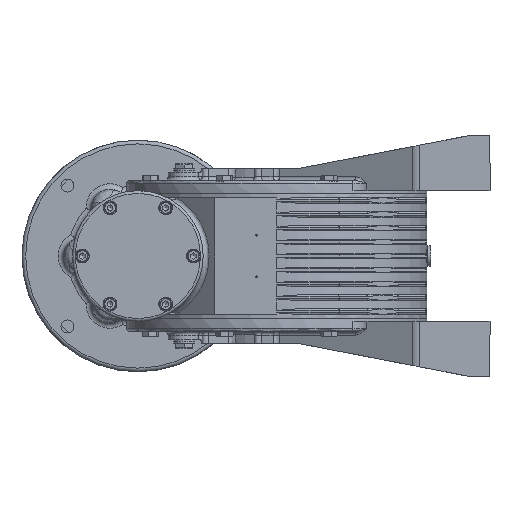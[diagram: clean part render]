
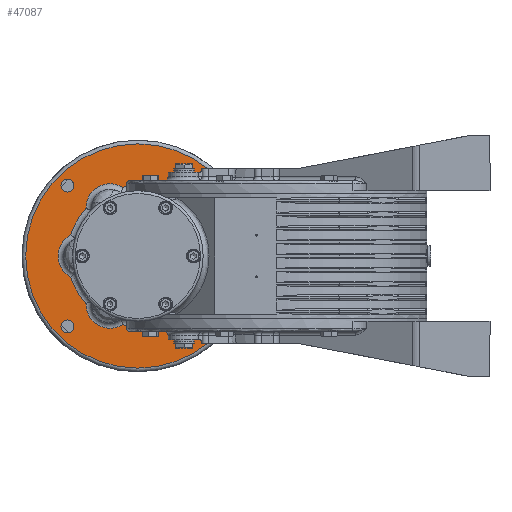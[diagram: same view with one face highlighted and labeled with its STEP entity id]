
A CAD part, left-side view. The second image highlights one B-rep face of the part: STEP entity #47087.
In plain terms, the highlighted planar face has unit normal (-1, 0, 0) as drawn and (1, 0, 0) by its records, which use the part's own axes.
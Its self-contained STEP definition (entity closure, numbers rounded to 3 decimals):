
#46913=CARTESIAN_POINT('',(15.0,121.0,0.));
#46914=VERTEX_POINT('',#46913);
#46915=CARTESIAN_POINT('',(15.0,0.0,0.0));
#46916=DIRECTION('',(-1.0,0.0,0.0));
#46917=DIRECTION('',(0.0,-1.0,0.0));
#46918=AXIS2_PLACEMENT_3D('',#46915,#46916,#46917);
#46919=CIRCLE('',#46918,121.0);
#46920=EDGE_CURVE('',#46914,#46914,#46919,.T.);
#46925=CARTESIAN_POINT('',(15.0,97.5,0.0));
#46926=DIRECTION('',(1.0,0.0,0.0));
#46927=DIRECTION('',(0.0,0.0,-1.0));
#46928=AXIS2_PLACEMENT_3D('',#46925,#46926,#46927);
#46929=PLANE('',#46928);
#46930=ORIENTED_EDGE('',*,*,#46920,.F.);
#46931=EDGE_LOOP('',(#46930));
#46932=FACE_OUTER_BOUND('',#46931,.T.);
#46933=CARTESIAN_POINT('',(15.0,16.506,74.186));
#46934=VERTEX_POINT('',#46933);
#46935=CARTESIAN_POINT('',(15.0,-16.506,74.186));
#46936=VERTEX_POINT('',#46935);
#46937=CARTESIAN_POINT('',(15.0,0.0,0.0));
#46938=DIRECTION('',(1.0,0.0,0.0));
#46939=DIRECTION('',(0.0,0.0,1.0));
#46940=AXIS2_PLACEMENT_3D('',#46937,#46938,#46939);
#46941=CIRCLE('',#46940,76.0);
#46942=EDGE_CURVE('',#46934,#46936,#46941,.T.);
#46943=ORIENTED_EDGE('',*,*,#46942,.F.);
#46944=CARTESIAN_POINT('',(15.0,55.994,51.388));
#46945=VERTEX_POINT('',#46944);
#46946=CARTESIAN_POINT('',(15.0,30.,51.962));
#46947=DIRECTION('',(1.0,0.0,0.0));
#46948=DIRECTION('',(0.0,0.5,0.866));
#46949=AXIS2_PLACEMENT_3D('',#46946,#46947,#46948);
#46950=CIRCLE('',#46949,26.);
#46951=EDGE_CURVE('',#46945,#46934,#46950,.T.);
#46952=ORIENTED_EDGE('',*,*,#46951,.F.);
#46953=CARTESIAN_POINT('',(15.0,72.5,22.798));
#46954=VERTEX_POINT('',#46953);
#46955=CARTESIAN_POINT('',(15.0,0.0,0.0));
#46956=DIRECTION('',(1.0,0.0,0.0));
#46957=DIRECTION('',(0.0,0.866,0.5));
#46958=AXIS2_PLACEMENT_3D('',#46955,#46956,#46957);
#46959=CIRCLE('',#46958,76.0);
#46960=EDGE_CURVE('',#46954,#46945,#46959,.T.);
#46961=ORIENTED_EDGE('',*,*,#46960,.F.);
#46962=CARTESIAN_POINT('',(15.0,72.5,-22.798));
#46963=VERTEX_POINT('',#46962);
#46964=CARTESIAN_POINT('',(15.0,60.0,0.));
#46965=DIRECTION('',(1.0,0.0,0.0));
#46966=DIRECTION('',(0.0,1.0,0.0));
#46967=AXIS2_PLACEMENT_3D('',#46964,#46965,#46966);
#46968=CIRCLE('',#46967,26.);
#46969=EDGE_CURVE('',#46963,#46954,#46968,.T.);
#46970=ORIENTED_EDGE('',*,*,#46969,.F.);
#46971=CARTESIAN_POINT('',(15.0,55.994,-51.388));
#46972=VERTEX_POINT('',#46971);
#46973=CARTESIAN_POINT('',(15.0,0.0,0.0));
#46974=DIRECTION('',(1.0,0.0,0.0));
#46975=DIRECTION('',(0.0,0.866,-0.5));
#46976=AXIS2_PLACEMENT_3D('',#46973,#46974,#46975);
#46977=CIRCLE('',#46976,76.);
#46978=EDGE_CURVE('',#46972,#46963,#46977,.T.);
#46979=ORIENTED_EDGE('',*,*,#46978,.F.);
#46980=CARTESIAN_POINT('',(15.0,16.506,-74.186));
#46981=VERTEX_POINT('',#46980);
#46982=CARTESIAN_POINT('',(15.0,30.,-51.962));
#46983=DIRECTION('',(1.0,0.0,0.0));
#46984=DIRECTION('',(0.0,0.5,-0.866));
#46985=AXIS2_PLACEMENT_3D('',#46982,#46983,#46984);
#46986=CIRCLE('',#46985,26.);
#46987=EDGE_CURVE('',#46981,#46972,#46986,.T.);
#46988=ORIENTED_EDGE('',*,*,#46987,.F.);
#46989=CARTESIAN_POINT('',(15.0,-16.506,-74.186));
#46990=VERTEX_POINT('',#46989);
#46991=CARTESIAN_POINT('',(15.0,0.0,0.0));
#46992=DIRECTION('',(1.0,0.0,0.0));
#46993=DIRECTION('',(0.0,0.0,-1.0));
#46994=AXIS2_PLACEMENT_3D('',#46991,#46992,#46993);
#46995=CIRCLE('',#46994,76.0);
#46996=EDGE_CURVE('',#46990,#46981,#46995,.T.);
#46997=ORIENTED_EDGE('',*,*,#46996,.F.);
#46998=CARTESIAN_POINT('',(15.0,-55.994,-51.388));
#46999=VERTEX_POINT('',#46998);
#47000=CARTESIAN_POINT('',(15.0,-30.,-51.962));
#47001=DIRECTION('',(1.0,0.0,0.0));
#47002=DIRECTION('',(0.0,-0.5,-0.866));
#47003=AXIS2_PLACEMENT_3D('',#47000,#47001,#47002);
#47004=CIRCLE('',#47003,26.0);
#47005=EDGE_CURVE('',#46999,#46990,#47004,.T.);
#47006=ORIENTED_EDGE('',*,*,#47005,.F.);
#47007=CARTESIAN_POINT('',(15.0,-72.5,-22.798));
#47008=VERTEX_POINT('',#47007);
#47009=CARTESIAN_POINT('',(15.0,0.0,0.0));
#47010=DIRECTION('',(1.0,0.0,0.0));
#47011=DIRECTION('',(0.0,-0.866,-0.5));
#47012=AXIS2_PLACEMENT_3D('',#47009,#47010,#47011);
#47013=CIRCLE('',#47012,76.);
#47014=EDGE_CURVE('',#47008,#46999,#47013,.T.);
#47015=ORIENTED_EDGE('',*,*,#47014,.F.);
#47016=CARTESIAN_POINT('',(15.0,-72.5,22.798));
#47017=VERTEX_POINT('',#47016);
#47018=CARTESIAN_POINT('',(15.0,-60.0,0.));
#47019=DIRECTION('',(1.0,0.0,0.0));
#47020=DIRECTION('',(0.0,-1.0,0.0));
#47021=AXIS2_PLACEMENT_3D('',#47018,#47019,#47020);
#47022=CIRCLE('',#47021,26.0);
#47023=EDGE_CURVE('',#47017,#47008,#47022,.T.);
#47024=ORIENTED_EDGE('',*,*,#47023,.F.);
#47025=CARTESIAN_POINT('',(15.0,-55.994,51.388));
#47026=VERTEX_POINT('',#47025);
#47027=CARTESIAN_POINT('',(15.0,0.0,0.0));
#47028=DIRECTION('',(1.0,0.0,0.0));
#47029=DIRECTION('',(0.0,-0.866,0.5));
#47030=AXIS2_PLACEMENT_3D('',#47027,#47028,#47029);
#47031=CIRCLE('',#47030,76.);
#47032=EDGE_CURVE('',#47026,#47017,#47031,.T.);
#47033=ORIENTED_EDGE('',*,*,#47032,.F.);
#47034=CARTESIAN_POINT('',(15.0,-30.,51.962));
#47035=DIRECTION('',(1.0,0.0,0.0));
#47036=DIRECTION('',(0.0,-0.5,0.866));
#47037=AXIS2_PLACEMENT_3D('',#47034,#47035,#47036);
#47038=CIRCLE('',#47037,26.);
#47039=EDGE_CURVE('',#46936,#47026,#47038,.T.);
#47040=ORIENTED_EDGE('',*,*,#47039,.F.);
#47041=EDGE_LOOP('',(#46943,#46952,#46961,#46970,#46979,#46988,#46997,#47006,#47015,#47024,#47033,#47040));
#47042=FACE_BOUND('',#47041,.T.);
#47043=CARTESIAN_POINT('',(15.0,76.014,69.014));
#47044=VERTEX_POINT('',#47043);
#47045=CARTESIAN_POINT('',(15.0,76.014,76.014));
#47046=DIRECTION('',(-1.0,0.0,0.0));
#47047=DIRECTION('',(0.0,0.0,1.0));
#47048=AXIS2_PLACEMENT_3D('',#47045,#47046,#47047);
#47049=CIRCLE('',#47048,7.);
#47050=EDGE_CURVE('',#47044,#47044,#47049,.T.);
#47051=ORIENTED_EDGE('',*,*,#47050,.T.);
#47052=EDGE_LOOP('',(#47051));
#47053=FACE_BOUND('',#47052,.T.);
#47054=CARTESIAN_POINT('',(15.0,-69.014,76.014));
#47055=VERTEX_POINT('',#47054);
#47056=CARTESIAN_POINT('',(15.0,-76.014,76.014));
#47057=DIRECTION('',(-1.0,0.0,0.0));
#47058=DIRECTION('',(0.0,-1.0,0.0));
#47059=AXIS2_PLACEMENT_3D('',#47056,#47057,#47058);
#47060=CIRCLE('',#47059,7.);
#47061=EDGE_CURVE('',#47055,#47055,#47060,.T.);
#47062=ORIENTED_EDGE('',*,*,#47061,.T.);
#47063=EDGE_LOOP('',(#47062));
#47064=FACE_BOUND('',#47063,.T.);
#47065=CARTESIAN_POINT('',(15.0,-76.014,-69.014));
#47066=VERTEX_POINT('',#47065);
#47067=CARTESIAN_POINT('',(15.0,-76.014,-76.014));
#47068=DIRECTION('',(-1.0,0.0,0.0));
#47069=DIRECTION('',(0.0,0.0,-1.0));
#47070=AXIS2_PLACEMENT_3D('',#47067,#47068,#47069);
#47071=CIRCLE('',#47070,7.);
#47072=EDGE_CURVE('',#47066,#47066,#47071,.T.);
#47073=ORIENTED_EDGE('',*,*,#47072,.T.);
#47074=EDGE_LOOP('',(#47073));
#47075=FACE_BOUND('',#47074,.T.);
#47076=CARTESIAN_POINT('',(15.0,69.014,-76.014));
#47077=VERTEX_POINT('',#47076);
#47078=CARTESIAN_POINT('',(15.0,76.014,-76.014));
#47079=DIRECTION('',(-1.0,0.0,0.0));
#47080=DIRECTION('',(0.0,1.0,0.0));
#47081=AXIS2_PLACEMENT_3D('',#47078,#47079,#47080);
#47082=CIRCLE('',#47081,7.);
#47083=EDGE_CURVE('',#47077,#47077,#47082,.T.);
#47084=ORIENTED_EDGE('',*,*,#47083,.T.);
#47085=EDGE_LOOP('',(#47084));
#47086=FACE_BOUND('',#47085,.T.);
#47087=ADVANCED_FACE('',(#46932,#47042,#47053,#47064,#47075,#47086),#46929,.T.);
